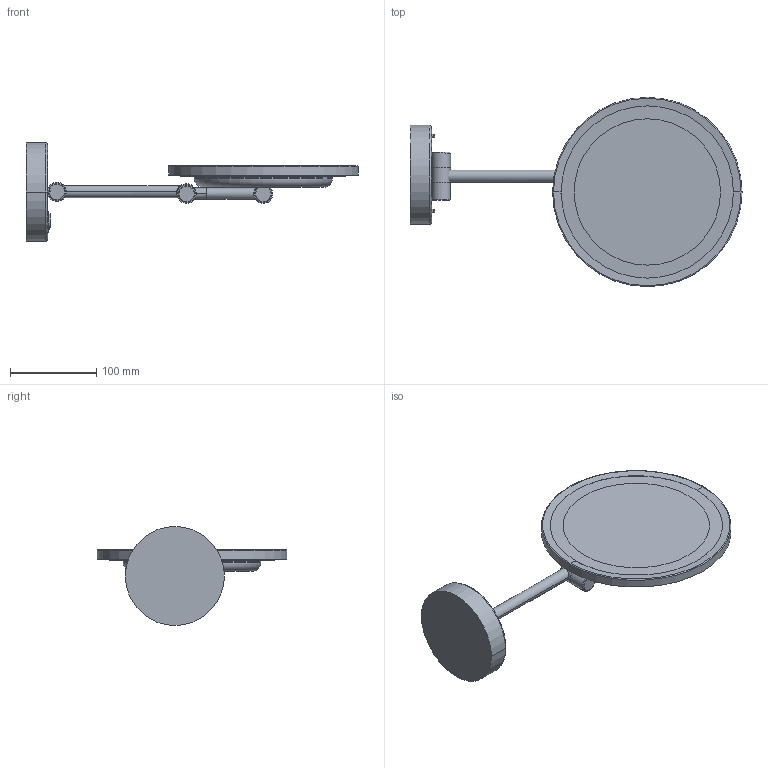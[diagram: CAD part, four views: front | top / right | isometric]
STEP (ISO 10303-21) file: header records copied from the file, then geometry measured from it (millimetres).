
FILE_DESCRIPTION (( 'STEP AP203' ), '1' );
FILE_NAME ('MR50201.STEP', '2023-01-31T09:55:32', ( '' ), ( '' ), 'SwSTEP 2.0', 'SolidWorks 2021', '' );
FILE_SCHEMA (( 'CONFIG_CONTROL_DESIGN' ));
Length unit declared in the file: millimetre
Products named in the file (1): MR50201
Bounding box: 385.59 x 220 x 115 mm (x, y, z)
Volume: 1015595.6 mm3; surface area: 160782.9 mm2
Topology: 14 solids, 14 shells, 176 faces, 348 edges, 212 vertices
Faces by surface type: torus 59, plane 58, cylinder 51, bspline 4, cone 4
Entity records: 5707 total; most frequent: CARTESIAN_POINT 1848, DIRECTION 908, ORIENTED_EDGE 696, AXIS2_PLACEMENT_3D 404, EDGE_CURVE 348, CIRCLE 231, VERTEX_POINT 212, EDGE_LOOP 194
